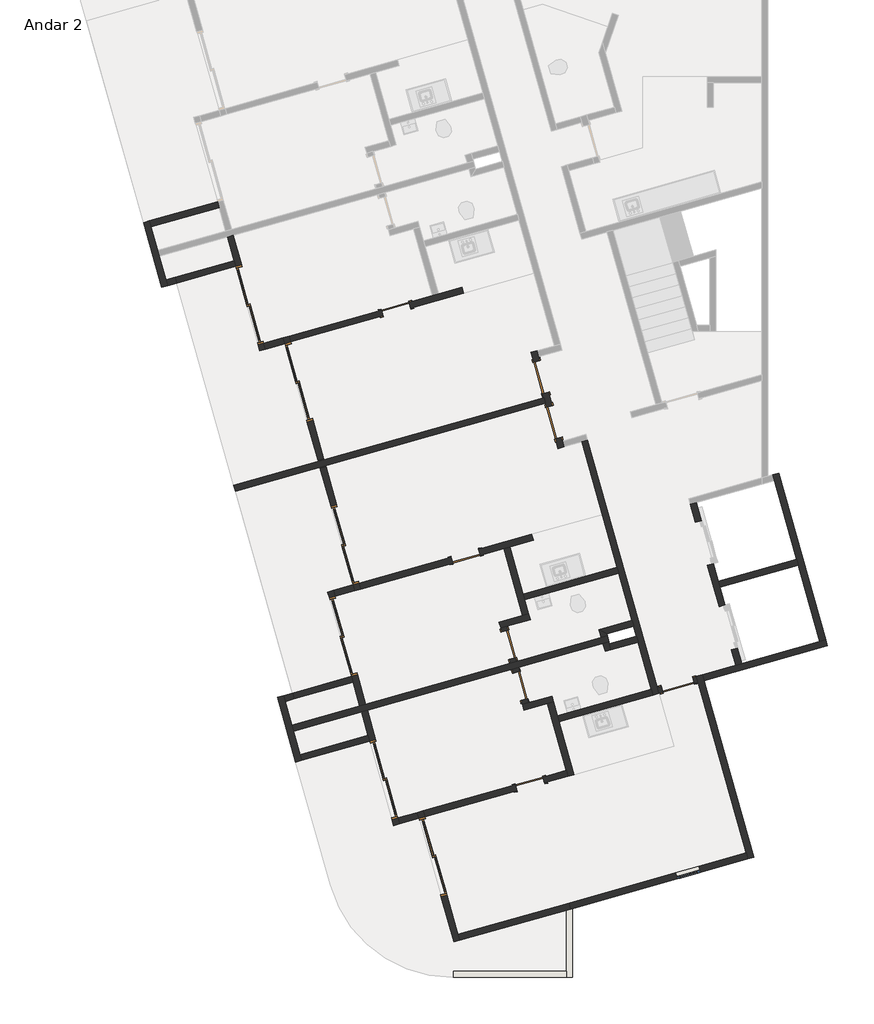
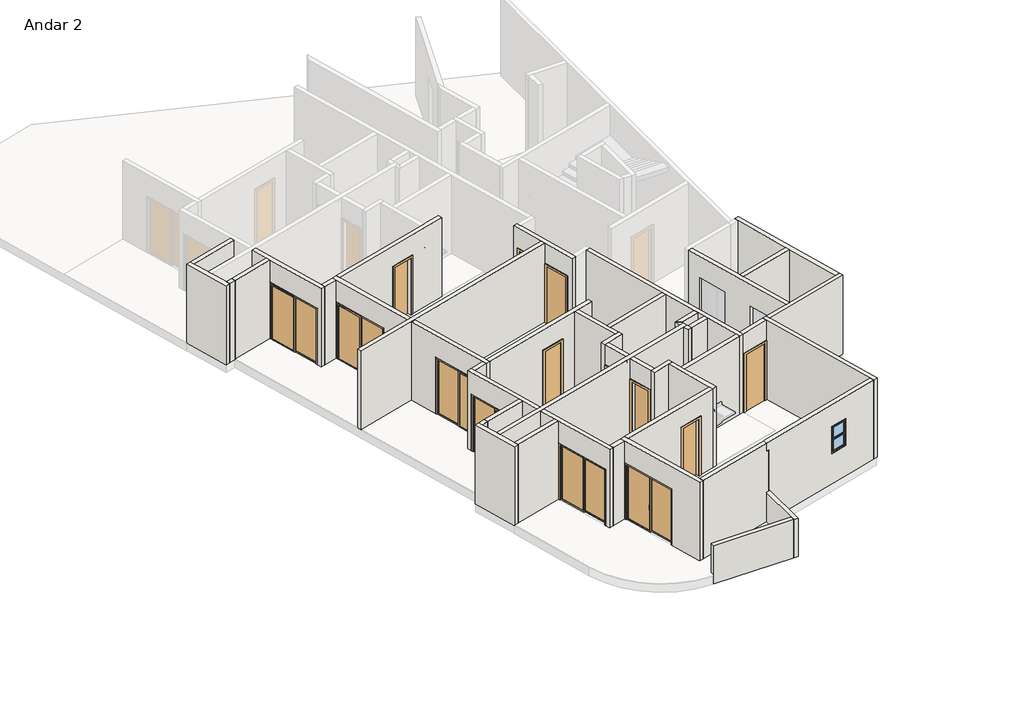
# One storey, part 1 of 3: 46 walls, 14 doors, 1 window.
"""IFC4 building model written with IfcOpenShell, lengths in millimetres."""

from ifc_helpers import new_model, si_unit, frame, origin, place, context, project, spatial, polyline, outline, extrude, faceted_brep, transform, mapped, element, save
from components import p2_80cm_9d4be4ef, p2_80cm_083652d6, p3_70cm_ef4d15e3, p3_70cm_0a698c7c, p4_correr_200cm_eaaa0877, p4_correr_200cm_830b8f20, bx_60cm_cef95a5c

model = new_model("IFC4")

# Units and contexts
model_context = context("Model", 3, world=origin())
ifc_project = project(units=[si_unit("LENGTHUNIT", "METRE", prefix="MILLI")], contexts=[model_context])

# Site, building, storey
site = spatial("IfcSite", under=ifc_project)
building = spatial("IfcBuilding", under=site)
storey = spatial("IfcBuildingStorey", under=building, Name="Andar 2", Elevation=56550.0)

# Doors
placement = place(None, origin())
p2_80cm_shape = p2_80cm_9d4be4ef(model_context)
element("IfcDoor", 1, ObjectType="M_Folha única1 : P2 - 80CM", at=placement, inside=storey, context=model_context, shape_type="MappedRepresentation", body=[
    mapped(p2_80cm_shape, transform((-80566.3456776, 19693.5423602, 56550.0), x_axis=(0.2717679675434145, -0.9623628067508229, 0.0), y_axis=(0.9623628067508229, 0.2717679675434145, 0.0), z_axis=(0.0, 0.0, 1.0))),
])
element("IfcDoor", 2, ObjectType="M_Folha única1 : P2 - 80CM", at=placement, inside=storey, context=model_context, shape_type="MappedRepresentation", body=[
    mapped(p2_80cm_shape, transform((-77213.6668366, 12144.847648, 56550.0), x_axis=(0.9623628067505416, 0.2717679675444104, 0.0), y_axis=(-0.2717679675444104, 0.9623628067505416, 0.0), z_axis=(0.0, 0.0, 1.0))),
])
p2_80cm_2_shape = p2_80cm_083652d6(model_context)
element("IfcDoor", 3, ObjectType="M_Folha única1 : P2 - 80CM", at=placement, inside=storey, context=model_context, shape_type="MappedRepresentation", body=[
    mapped(p2_80cm_2_shape, transform((-80253.8125149, 18586.8251325, 56550.0), x_axis=(-0.2717679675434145, 0.9623628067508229, 0.0), y_axis=(-0.9623628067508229, -0.2717679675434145, 0.0), z_axis=(0.0, 0.0, 1.0))),
])
p3_70cm_shape = p3_70cm_ef4d15e3(model_context)
element("IfcDoor", 4, ObjectType="M_Folha única1 : P3 - 70CM", at=placement, inside=storey, context=model_context, shape_type="MappedRepresentation", body=[
    mapped(p3_70cm_shape, transform((-84129.1775441, 21363.1168842, 56550.0), x_axis=(0.9623628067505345, 0.27176796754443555, 0.0), y_axis=(-0.27176796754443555, 0.9623628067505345, 0.0), z_axis=(0.0, 0.0, 1.0))),
])
element("IfcDoor", 5, ObjectType="M_Folha única1 : P3 - 70CM", at=placement, inside=storey, context=model_context, shape_type="MappedRepresentation", body=[
    mapped(p3_70cm_shape, transform((-80840.7851368, 9718.5269225, 56550.0), x_axis=(0.9623628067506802, 0.2717679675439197, 0.0), y_axis=(-0.2717679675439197, 0.9623628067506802, 0.0), z_axis=(0.0, 0.0, 1.0))),
])
element("IfcDoor", 6, ObjectType="M_Folha única1 : P3 - 70CM", at=placement, inside=storey, context=model_context, shape_type="MappedRepresentation", body=[
    mapped(p3_70cm_shape, transform((-81362.5862327, 13130.1209218, 56550.0), x_axis=(0.271767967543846, -0.9623628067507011, 0.0), y_axis=(0.9623628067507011, 0.271767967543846, 0.0), z_axis=(0.0, 0.0, 1.0))),
])
p3_70cm_2_shape = p3_70cm_0a698c7c(model_context)
element("IfcDoor", 7, ObjectType="M_Folha única1 : P3 - 70CM", at=placement, inside=storey, context=model_context, shape_type="MappedRepresentation", body=[
    mapped(p3_70cm_2_shape, transform((-81077.2298668, 12119.6399747, 56550.0), x_axis=(-0.27176796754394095, 0.9623628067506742, 0.0), y_axis=(-0.9623628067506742, -0.27176796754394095, 0.0), z_axis=(0.0, 0.0, 1.0))),
])
element("IfcDoor", 8, ObjectType="M_Folha única1 : P3 - 70CM", at=placement, inside=storey, context=model_context, shape_type="MappedRepresentation", body=[
    mapped(p3_70cm_2_shape, transform((-82417.0393485, 15300.2312016, 56550.0), x_axis=(0.9623628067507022, 0.27176796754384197, 0.0), y_axis=(-0.27176796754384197, 0.9623628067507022, 0.0), z_axis=(0.0, 0.0, 1.0))),
])
p4_correr_200cm_shape = p4_correr_200cm_eaaa0877(model_context)
element("IfcDoor", 9, ObjectType="Porta de correr dupla envidraçada sem revestimento : P4 - CORRER - 200CM", at=placement, inside=storey, context=model_context, shape_type="MappedRepresentation", body=[
    mapped(p4_correr_200cm_shape, transform((-86511.4049952, 19573.3416554, 56550.0), x_axis=(0.2717679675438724, -0.9623628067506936, 0.0), y_axis=(0.9623628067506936, 0.2717679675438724, 0.0), z_axis=(0.0, 0.0, 1.0))),
])
element("IfcDoor", 10, ObjectType="Porta de correr dupla envidraçada sem revestimento : P4 - CORRER - 200CM", at=placement, inside=storey, context=model_context, shape_type="MappedRepresentation", body=[
    mapped(p4_correr_200cm_shape, transform((-87717.4207223, 21466.8516126, 56550.0), x_axis=(0.2717679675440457, -0.9623628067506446, 0.0), y_axis=(0.9623628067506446, 0.2717679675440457, 0.0), z_axis=(0.0, 0.0, 1.0))),
])
element("IfcDoor", 11, ObjectType="Porta de correr dupla envidraçada sem revestimento : P4 - CORRER - 200CM", at=placement, inside=storey, context=model_context, shape_type="MappedRepresentation", body=[
    mapped(p4_correr_200cm_shape, transform((-84429.028315, 9822.2616509, 56550.0), x_axis=(-0.27176796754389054, 0.9623628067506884, 0.0), y_axis=(-0.9623628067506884, -0.27176796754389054, 0.0), z_axis=(0.0, 0.0, 1.0))),
])
element("IfcDoor", 12, ObjectType="Porta de correr dupla envidraçada sem revestimento : P4 - CORRER - 200CM", at=placement, inside=storey, context=model_context, shape_type="MappedRepresentation", body=[
    mapped(p4_correr_200cm_shape, transform((-83223.012588, 7928.7516937, 56550.0), x_axis=(-0.2717679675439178, 0.9623628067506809, 0.0), y_axis=(-0.9623628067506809, -0.2717679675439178, 0.0), z_axis=(0.0, 0.0, 1.0))),
])
p4_correr_200cm_2_shape = p4_correr_200cm_830b8f20(model_context)
element("IfcDoor", 13, ObjectType="Porta de correr dupla envidraçada sem revestimento : P4 - CORRER - 200CM", at=placement, inside=storey, context=model_context, shape_type="MappedRepresentation", body=[
    mapped(p4_correr_200cm_2_shape, transform((-85383.5679299, 15579.5360073, 56550.0), x_axis=(-0.2717679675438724, 0.9623628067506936, 0.0), y_axis=(-0.9623628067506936, -0.2717679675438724, 0.0), z_axis=(0.0, 0.0, 1.0))),
])
element("IfcDoor", 14, ObjectType="Porta de correr dupla envidraçada sem revestimento : P4 - CORRER - 200CM", at=placement, inside=storey, context=model_context, shape_type="MappedRepresentation", body=[
    mapped(p4_correr_200cm_2_shape, transform((-85420.9813965, 13334.8858955, 56550.0), x_axis=(-0.27176796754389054, 0.9623628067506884, 0.0), y_axis=(-0.9623628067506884, -0.27176796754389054, 0.0), z_axis=(0.0, 0.0, 1.0))),
])

# Walls
element("IfcWall", 15, ObjectType="Básica .15 - Externa", at=placement, inside=storey, context=model_context, shape_type="Brep", body=[
    faceted_brep([(-75344.9919691, 7919.3931149, 56550.0), (-76567.7484146, 12249.3196164, 56550.0), (-76608.5136097, 12393.6740374, 56550.0), (-76608.5136097, 12393.6740374, 59450.0), (-76567.7484146, 12249.3196164, 59450.0), (-75344.9919691, 7919.3931149, 59450.0), (-75489.3463901, 7878.6279198, 56550.0), (-75489.3463901, 7878.6279198, 59450.0), (-75530.1115852, 8022.9823408, 59450.0), (-76712.1028356, 12208.5544213, 59450.0), (-76752.8680308, 12352.9088423, 59450.0), (-76752.8680308, 12352.9088423, 56550.0), (-76712.1028356, 12208.5544213, 56550.0), (-75530.1115852, 8022.9823408, 56550.0)], [[[0, 1, 2, 3, 4, 5]], [[6, 7, 8, 9, 10, 11, 12, 13]], [[2, 1, 0, 6, 13, 12, 11]], [[5, 4, 3, 10, 9, 8, 7]], [[0, 5, 7, 6]], [[3, 2, 11, 10]]]),
])
element("IfcWall", 16, ObjectType="Básica .15 -  Interna", at=placement, inside=storey, context=model_context, shape_type="Brep", body=[
    faceted_brep([(-80529.815701, 19288.21464, 56550.0), (-80502.6389043, 19191.9783593, 56550.0), (-80461.8737092, 19047.6239383, 56550.0), (-80434.6969124, 18951.3876576, 56550.0), (-80434.6969124, 18951.3876576, 58650.0), (-80217.2825384, 18181.4974122, 58650.0), (-80217.2825384, 18181.4974122, 56550.0), (-80149.3405465, 17940.9067105, 56550.0), (-80149.3405465, 17940.9067105, 59450.0), (-80461.8737092, 19047.6239383, 59450.0), (-80502.6389043, 19191.9783593, 59450.0), (-80815.172067, 20298.695587, 59450.0), (-80815.172067, 20298.695587, 56550.0), (-80747.2300751, 20058.1048854, 56550.0), (-80747.2300751, 20058.1048854, 58650.0), (-80529.815701, 19288.21464, 58650.0), (-80290.3424914, 18992.1528527, 58650.0), (-80290.3424914, 18992.1528527, 56550.0), (-80385.46128, 19328.9798351, 56550.0), (-80385.46128, 19328.9798351, 58650.0), (-80602.8756541, 20098.8700805, 58650.0), (-80602.8756541, 20098.8700805, 56550.0), (-80630.0524508, 20195.1063612, 56550.0), (-80670.817646, 20339.4607822, 56550.0), (-80670.817646, 20339.4607822, 59450.0), (-80630.0524508, 20195.1063612, 59450.0), (-80045.7513206, 18126.0263266, 59450.0), (-80004.9861255, 17981.6719056, 59450.0), (-80004.9861255, 17981.6719056, 56550.0), (-80045.7513206, 18126.0263266, 56550.0), (-80072.9281174, 18222.2626073, 56550.0), (-80072.9281174, 18222.2626073, 58650.0)], [[[0, 1, 2, 3, 4, 5, 6, 7, 8, 9, 10, 11, 12, 13, 14, 15]], [[16, 17, 18, 19, 20, 21, 22, 23, 24, 25, 26, 27, 28, 29, 30, 31]], [[13, 12, 23, 22, 21]], [[18, 17, 3, 2, 1, 0]], [[30, 29, 28, 7, 6]], [[11, 10, 9, 8, 27, 26, 25, 24]], [[12, 11, 24, 23]], [[8, 7, 28, 27]], [[19, 18, 0, 15]], [[20, 19, 15, 14]], [[21, 20, 14, 13]], [[4, 3, 17, 16]], [[5, 4, 16, 31]], [[6, 5, 31, 30]]]),
])
element("IfcWall", 17, ObjectType="Básica .15 -  Interna", at=placement, inside=storey, context=model_context, shape_type="Brep", body=[
    faceted_brep([(-79571.9228624, 18103.967491, 56550.0), (-78702.2653663, 15024.4065094, 56550.0), (-78661.5001712, 14880.0520884, 56550.0), (-78335.3786101, 13725.2167203, 56550.0), (-78294.613415, 13580.8622993, 56550.0), (-78226.6714231, 13340.2715976, 56550.0), (-78185.906228, 13195.9171766, 56550.0), (-77818.8200634, 11896.0212586, 56550.0), (-77818.8200634, 11896.0212586, 59450.0), (-78185.906228, 13195.9171766, 59450.0), (-78226.6714231, 13340.2715976, 59450.0), (-78294.613415, 13580.8622993, 59450.0), (-78335.3786101, 13725.2167203, 59450.0), (-78661.5001712, 14880.0520884, 59450.0), (-78702.2653663, 15024.4065094, 59450.0), (-79571.9228624, 18103.967491, 59450.0), (-79427.5684414, 18144.7326862, 56550.0), (-79427.5684414, 18144.7326862, 59450.0), (-77715.2308375, 12081.1408747, 59450.0), (-77674.4656424, 11936.7864537, 59450.0), (-77674.4656424, 11936.7864537, 56550.0), (-77715.2308375, 12081.1408747, 56550.0)], [[[0, 1, 2, 3, 4, 5, 6, 7, 8, 9, 10, 11, 12, 13, 14, 15]], [[16, 17, 18, 19, 20, 21]], [[7, 6, 5, 4, 3, 2, 1, 0, 16, 21, 20]], [[15, 14, 13, 12, 11, 10, 9, 8, 19, 18, 17]], [[0, 15, 17, 16]], [[8, 7, 20, 19]]]),
])
element("IfcWall", 18, ObjectType="Básica .15 -  Interna", at=placement, inside=storey, context=model_context, shape_type="Brep", body=[
    faceted_brep([(-85017.5646639, 11630.3683862, 59450.0), (-85180.6254444, 12207.7860702, 59450.0), (-85221.3906395, 12352.1404912, 59450.0), (-85805.6917697, 14421.2205257, 59450.0), (-85805.6917697, 14421.2205257, 56550.0), (-85764.9265746, 14276.8661047, 56550.0), (-85764.9265746, 14276.8661047, 58650.0), (-85221.3906395, 12352.1404912, 58650.0), (-85221.3906395, 12352.1404912, 56550.0), (-85180.6254444, 12207.7860702, 56550.0), (-85017.5646639, 11630.3683862, 56550.0), (-85661.3373487, 14461.9857209, 59450.0), (-85620.5721536, 14317.6312998, 59450.0), (-84873.2102428, 11671.1335813, 59450.0), (-84873.2102428, 11671.1335813, 56550.0), (-85077.0362185, 12392.9056863, 56550.0), (-85077.0362185, 12392.9056863, 58650.0), (-85620.5721536, 14317.6312998, 58650.0), (-85620.5721536, 14317.6312998, 56550.0), (-85661.3373487, 14461.9857209, 56550.0)], [[[0, 1, 2, 3, 4, 5, 6, 7, 8, 9, 10]], [[11, 12, 13, 14, 15, 16, 17, 18, 19]], [[4, 19, 18, 5]], [[14, 10, 9, 8, 15]], [[3, 2, 1, 0, 13, 12, 11]], [[4, 3, 11, 19]], [[0, 10, 14, 13]], [[17, 6, 5, 18]], [[6, 17, 16, 7]], [[7, 16, 15, 8]]]),
])
element("IfcWall", 19, ObjectType="Básica .15 -  Interna", at=placement, inside=storey, context=model_context, shape_type="Brep", body=[
    faceted_brep([(-82710.8886682, 5839.2890616, 59450.0), (-83566.957766, 8870.7319029, 59450.0), (-83607.7229611, 9015.0863239, 59450.0), (-83607.7229611, 9015.0863239, 56550.0), (-83566.957766, 8870.7319029, 56550.0), (-83566.957766, 8870.7319029, 58650.0), (-83023.4218309, 6946.0062894, 58650.0), (-83023.4218309, 6946.0062894, 56550.0), (-82710.8886682, 5839.2890616, 56550.0), (-83463.3685401, 9055.851519, 59450.0), (-83422.603345, 8911.497098, 59450.0), (-82607.2994424, 6024.4086777, 59450.0), (-82566.5342472, 5880.0542567, 59450.0), (-82566.5342472, 5880.0542567, 56550.0), (-82607.2994424, 6024.4086777, 56550.0), (-82879.0674099, 6986.7714845, 56550.0), (-82879.0674099, 6986.7714845, 58650.0), (-83422.603345, 8911.497098, 58650.0), (-83422.603345, 8911.497098, 56550.0), (-83463.3685401, 9055.851519, 56550.0)], [[[0, 1, 2, 3, 4, 5, 6, 7, 8]], [[9, 10, 11, 12, 13, 14, 15, 16, 17, 18, 19]], [[3, 19, 18, 4]], [[13, 8, 7, 15, 14]], [[2, 1, 0, 12, 11, 10, 9]], [[3, 2, 9, 19]], [[0, 8, 13, 12]], [[17, 5, 4, 18]], [[5, 17, 16, 6]], [[6, 16, 15, 7]]]),
])
element("IfcWall", 20, ObjectType="Básica .15 -  Interna", at=placement, inside=storey, context=model_context, shape_type="Brep", body=[
    faceted_brep([(-86046.8404698, 17652.2925145, 56550.0), (-86046.8404698, 17652.2925145, 59450.0), (-86855.3501733, 20515.3218646, 59450.0), (-86896.1153684, 20659.6762856, 59450.0), (-86896.1153684, 20659.6762856, 56550.0), (-86855.3501733, 20515.3218646, 56550.0), (-86855.3501733, 20515.3218646, 58650.0), (-86311.8142382, 18590.596251, 58650.0), (-86311.8142382, 18590.596251, 56550.0), (-85902.4860488, 17693.0577096, 59450.0), (-85902.4860488, 17693.0577096, 56550.0), (-86167.4598172, 18631.3614462, 56550.0), (-86167.4598172, 18631.3614462, 58650.0), (-86710.9957523, 20556.0870597, 58650.0), (-86710.9957523, 20556.0870597, 56550.0), (-86751.7609474, 20700.4414807, 56550.0), (-86751.7609474, 20700.4414807, 59450.0), (-86710.9957523, 20556.0870597, 59450.0)], [[[0, 1, 2, 3, 4, 5, 6, 7, 8]], [[9, 10, 11, 12, 13, 14, 15, 16, 17]], [[10, 0, 8, 11]], [[4, 15, 14, 5]], [[1, 0, 10, 9]], [[3, 2, 1, 9, 17, 16]], [[4, 3, 16, 15]], [[7, 12, 11, 8]], [[12, 7, 6, 13]], [[13, 6, 5, 14]]]),
])
element("IfcWall", 21, ObjectType="Básica .15 - Externa", at=placement, inside=storey, context=model_context, shape_type="Brep", body=[
    faceted_brep([(-79945.4990038, 6620.2256515, 57650.0), (-79945.4990038, 6620.2256515, 56550.0), (-79945.4990038, 6620.2256515, 56250.0), (-79945.4990038, 5119.4122055, 56250.0), (-79945.4990038, 4969.4122055, 56250.0), (-79945.4990038, 4969.4122055, 57650.0), (-79945.4990038, 5119.4122055, 57650.0), (-79795.4990038, 6662.5851389, 56250.0), (-79795.4990038, 6662.5851389, 57650.0), (-79795.4990038, 4969.4122055, 57650.0), (-79795.4990038, 4969.4122055, 56250.0), (-79850.1164062, 6647.1613711, 56250.0)], [[[0, 1, 2, 3, 4, 5, 6]], [[7, 8, 9, 10]], [[4, 3, 2, 11, 7, 10]], [[0, 6, 5, 9, 8]], [[5, 4, 10, 9]], [[0, 8, 7, 11, 2, 1]]]),
])
element("IfcWall", 22, ObjectType="Básica .15 - Externa", at=placement, inside=storey, context=model_context, shape_type="SweptSolid", body=[
    extrude(outline(polyline([(-82713.5540687, 5119.4122055), (-79945.4990038, 5119.4122055), (-79945.4990038, 4969.4122055), (-82713.5540687, 4969.4122055), (-82713.5540687, 5119.4122055)])), frame((0.0, 0.0, 56250.0), z_axis=(0.0, 0.0, 1.0), x_axis=(1.0, 0.0, 0.0)), (0.0, 0.0, 1.0), 1400.0),
])
element("IfcWall", 23, ObjectType="Básica .15 - Externa", at=placement, inside=storey, context=model_context, shape_type="Brep", body=[
    faceted_brep([(-73581.8825825, 13248.3842954, 56550.0), (-73726.2370035, 13207.6191002, 56550.0), (-75646.150803, 12665.442005, 56550.0), (-75790.505224, 12624.6768098, 56550.0), (-76608.5136097, 12393.6740374, 56550.0), (-76608.5136097, 12393.6740374, 59450.0), (-75790.505224, 12624.6768098, 59450.0), (-75646.150803, 12665.442005, 59450.0), (-73726.2370035, 13207.6191002, 59450.0), (-73581.8825825, 13248.3842954, 59450.0), (-73541.1173874, 13104.0298743, 56550.0), (-73541.1173874, 13104.0298743, 59450.0), (-76567.7484146, 12249.3196164, 59450.0), (-76567.7484146, 12249.3196164, 56550.0)], [[[0, 1, 2, 3, 4, 5, 6, 7, 8, 9]], [[10, 11, 12, 13]], [[4, 3, 2, 1, 0, 10, 13]], [[9, 8, 7, 6, 5, 12, 11]], [[0, 9, 11, 10]], [[5, 4, 13, 12]]]),
])
element("IfcWall", 24, ObjectType="Básica .15 - Externa", at=placement, inside=storey, context=model_context, shape_type="Brep", body=[
    faceted_brep([(-74881.2508656, 17297.6610289, 56550.0), (-74840.4856705, 17153.3066079, 56550.0), (-74296.9497354, 15228.5809944, 56550.0), (-74256.1845402, 15084.2265734, 56550.0), (-73726.2370035, 13207.6191002, 56550.0), (-73726.2370035, 13207.6191002, 59450.0), (-74256.1845402, 15084.2265734, 59450.0), (-74296.9497354, 15228.5809944, 59450.0), (-74840.4856705, 17153.3066079, 59450.0), (-74881.2508656, 17297.6610289, 59450.0), (-74736.8964446, 17338.426224, 56550.0), (-74736.8964446, 17338.426224, 59450.0), (-73581.8825825, 13248.3842954, 59450.0), (-73581.8825825, 13248.3842954, 56550.0)], [[[0, 1, 2, 3, 4, 5, 6, 7, 8, 9]], [[10, 11, 12, 13]], [[4, 3, 2, 1, 0, 10, 13]], [[9, 8, 7, 6, 5, 12, 11]], [[0, 9, 11, 10]], [[5, 4, 13, 12]]]),
])
element("IfcWall", 25, ObjectType="Básica .15 -  Interna", at=placement, inside=storey, context=model_context, shape_type="Brep", body=[
    faceted_brep([(-76483.167581, 15077.4768805, 56550.0), (-76197.8112151, 14066.9959334, 56550.0), (-76197.8112151, 14066.9959334, 58675.0), (-75898.8664508, 13008.396846, 58675.0), (-75898.8664508, 13008.396846, 56550.0), (-75790.505224, 12624.6768098, 56550.0), (-75790.505224, 12624.6768098, 59450.0), (-76904.7538909, 16570.3643175, 59450.0), (-76904.7538909, 16570.3643175, 56550.0), (-76782.1123453, 16136.075968, 56550.0), (-76782.1123453, 16136.075968, 58675.0), (-76483.167581, 15077.4768805, 58675.0), (-76053.4567941, 14107.7611286, 58675.0), (-76053.4567941, 14107.7611286, 56550.0), (-76176.0983397, 14542.0494781, 56550.0), (-76216.8635348, 14686.4038991, 56550.0), (-76338.81316, 15118.2420757, 56550.0), (-76338.81316, 15118.2420757, 58675.0), (-76637.7579243, 16176.8411631, 58675.0), (-76637.7579243, 16176.8411631, 56550.0), (-76760.3994699, 16611.1295126, 56550.0), (-76760.3994699, 16611.1295126, 59450.0), (-76216.8635348, 14686.4038991, 59450.0), (-76176.0983397, 14542.0494781, 59450.0), (-75646.150803, 12665.442005, 59450.0), (-75646.150803, 12665.442005, 56550.0), (-75754.5120298, 13049.1620412, 56550.0), (-75754.5120298, 13049.1620412, 58675.0)], [[[0, 1, 2, 3, 4, 5, 6, 7, 8, 9, 10, 11]], [[12, 13, 14, 15, 16, 17, 18, 19, 20, 21, 22, 23, 24, 25, 26, 27]], [[9, 8, 20, 19]], [[26, 25, 5, 4]], [[16, 15, 14, 13, 1, 0]], [[7, 6, 24, 23, 22, 21]], [[8, 7, 21, 20]], [[6, 5, 25, 24]], [[4, 3, 27, 26]], [[2, 1, 13, 12]], [[3, 2, 12, 27]], [[19, 18, 10, 9]], [[17, 16, 0, 11]], [[18, 17, 11, 10]]]),
])
element("IfcWall", 26, ObjectType="Básica .15 -  Interna", at=placement, inside=storey, context=model_context, shape_type="SweptSolid", body=[
    extrude(outline(polyline([(-74256.1845402, 15084.2265734), (-76176.0983397, 14542.0494781), (-76216.8635348, 14686.4038991), (-74296.9497354, 15228.5809944), (-74256.1845402, 15084.2265734)])), frame((0.0, 0.0, 56550.0), z_axis=(0.0, 0.0, 1.0), x_axis=(1.0, 0.0, 0.0)), (0.0, 0.0, 1.0), 2900.0),
])
element("IfcWall", 27, ObjectType="Básica .15 -  Interna", at=placement, inside=storey, context=model_context, shape_type="Brep", body=[
    faceted_brep([(-82566.5342472, 5880.0542567, 56550.0), (-79945.4990038, 6620.2256515, 56550.0), (-79850.1164062, 6647.1613711, 56550.0), (-79850.1164062, 6647.1613711, 59150.0), (-79945.4990038, 6620.2256515, 59150.0), (-79945.4990038, 6620.2256515, 59450.0), (-82566.5342472, 5880.0542567, 59450.0), (-82607.2994424, 6024.4086777, 56550.0), (-82607.2994424, 6024.4086777, 59450.0), (-79945.4990038, 6776.0920243, 59450.0), (-79945.4990038, 6776.0920243, 59150.0), (-79890.8816014, 6791.5157921, 59150.0), (-79890.8816014, 6791.5157921, 56550.0), (-79945.4990038, 6776.0920243, 56550.0)], [[[0, 1, 2, 3, 4, 5, 6]], [[7, 8, 9, 10, 11, 12, 13]], [[2, 1, 0, 7, 13, 12]], [[6, 5, 9, 8]], [[0, 6, 8, 7]], [[2, 12, 11, 3]], [[10, 4, 3, 11]], [[5, 4, 10, 9]]]),
])
element("IfcWall", 28, ObjectType="Básica .15 -  Interna", at=placement, inside=storey, context=model_context, shape_type="Brep", body=[
    faceted_brep([(-85221.3906395, 12352.1404912, 56550.0), (-86668.7560772, 11943.4094383, 56550.0), (-86668.7560772, 11943.4094383, 59450.0), (-85221.3906395, 12352.1404912, 59450.0), (-85221.3906395, 12352.1404912, 58650.0), (-85180.6254444, 12207.7860702, 56550.0), (-85180.6254444, 12207.7860702, 59450.0), (-86627.9908821, 11799.0550173, 59450.0), (-86627.9908821, 11799.0550173, 56550.0)], [[[0, 1, 2, 3, 4]], [[5, 6, 7, 8]], [[1, 0, 5, 8]], [[2, 1, 8, 7]], [[3, 2, 7, 6]], [[0, 4, 3, 6, 5]]]),
])
element("IfcWall", 29, ObjectType="Básica .15 - Externa", at=placement, inside=storey, context=model_context, shape_type="Brep", body=[
    faceted_brep([(-86444.4738537, 10292.215871, 56550.0), (-86485.2390488, 10436.570292, 56550.0), (-86648.2998293, 11013.987976, 56550.0), (-86689.0650245, 11158.342397, 56550.0), (-86852.125805, 11735.7600811, 56550.0), (-86892.8910001, 11880.1145021, 56550.0), (-86892.8910001, 11880.1145021, 59450.0), (-86852.125805, 11735.7600811, 59450.0), (-86689.0650245, 11158.342397, 59450.0), (-86648.2998293, 11013.987976, 59450.0), (-86485.2390488, 10436.570292, 59450.0), (-86444.4738537, 10292.215871, 59450.0), (-86588.8282747, 10251.4506758, 56550.0), (-86588.8282747, 10251.4506758, 59450.0), (-87037.2454211, 11839.349307, 59450.0), (-87037.2454211, 11839.349307, 56550.0)], [[[0, 1, 2, 3, 4, 5, 6, 7, 8, 9, 10, 11]], [[12, 13, 14, 15]], [[5, 4, 3, 2, 1, 0, 12, 15]], [[11, 10, 9, 8, 7, 6, 14, 13]], [[6, 5, 15, 14]], [[0, 11, 13, 12]]]),
])
element("IfcWall", 30, ObjectType="Básica .15 -  Interna", at=placement, inside=storey, context=model_context, shape_type="Brep", body=[
    faceted_brep([(-86444.4738537, 10292.215871, 56550.0), (-84772.9734931, 10764.2418601, 56550.0), (-84772.9734931, 10764.2418601, 58650.0), (-84772.9734931, 10764.2418601, 59450.0), (-86444.4738537, 10292.215871, 59450.0), (-86485.2390488, 10436.570292, 56550.0), (-86485.2390488, 10436.570292, 59450.0), (-84813.7386882, 10908.5962811, 59450.0), (-84813.7386882, 10908.5962811, 56550.0)], [[[0, 1, 2, 3, 4]], [[5, 6, 7, 8]], [[1, 0, 5, 8]], [[4, 3, 7, 6]], [[0, 4, 6, 5]], [[3, 2, 1, 8, 7]]]),
])
element("IfcWall", 31, ObjectType="Básica .15 - Externa", at=placement, inside=storey, context=model_context, shape_type="Brep", body=[
    faceted_brep([(-89732.866261, 21936.8058326, 56550.0), (-89773.6314561, 22081.1602536, 56550.0), (-89936.6922366, 22658.5779377, 56550.0), (-89977.4574318, 22802.9323587, 56550.0), (-90140.5182123, 23380.3500428, 56550.0), (-90181.2834074, 23524.7044638, 56550.0), (-90181.2834074, 23524.7044638, 59450.0), (-90140.5182123, 23380.3500428, 59450.0), (-89977.4574318, 22802.9323587, 59450.0), (-89936.6922366, 22658.5779377, 59450.0), (-89773.6314561, 22081.1602536, 59450.0), (-89732.866261, 21936.8058326, 59450.0), (-89877.220682, 21896.0406375, 56550.0), (-89877.220682, 21896.0406375, 59450.0), (-90325.6378284, 23483.9392686, 59450.0), (-90325.6378284, 23483.9392686, 56550.0)], [[[0, 1, 2, 3, 4, 5, 6, 7, 8, 9, 10, 11]], [[12, 13, 14, 15]], [[5, 4, 3, 2, 1, 0, 12, 15]], [[11, 10, 9, 8, 7, 6, 14, 13]], [[0, 11, 13, 12]], [[6, 5, 15, 14]]]),
])
element("IfcWall", 32, ObjectType="Básica .15 -  Interna", at=placement, inside=storey, context=model_context, shape_type="Brep", body=[
    faceted_brep([(-88102.1310955, 22553.1862428, 56550.0), (-89549.4965332, 22144.4551899, 56550.0), (-89549.4965332, 22144.4551899, 59450.0), (-88102.1310955, 22553.1862428, 59450.0), (-88061.3659003, 22408.8318218, 56550.0), (-88061.3659003, 22408.8318218, 58650.0), (-88061.3659003, 22408.8318218, 59450.0), (-89508.731338, 22000.1007688, 59450.0), (-89508.731338, 22000.1007688, 56550.0)], [[[0, 1, 2, 3]], [[4, 5, 6, 7, 8]], [[1, 0, 4, 8]], [[2, 1, 8, 7]], [[3, 2, 7, 6]], [[0, 3, 6, 5, 4]]]),
])
element("IfcWall", 33, ObjectType="Básica .15 -  Interna", at=placement, inside=storey, context=model_context, shape_type="Brep", body=[
    faceted_brep([(-90140.5182123, 23380.3500428, 56550.0), (-88469.0178517, 23852.3760319, 56550.0), (-88469.0178517, 23852.3760319, 59450.0), (-90140.5182123, 23380.3500428, 59450.0), (-90181.2834074, 23524.7044638, 56550.0), (-90181.2834074, 23524.7044638, 59450.0), (-88509.7830468, 23996.7304529, 59450.0), (-88509.7830468, 23996.7304529, 58650.0), (-88509.7830468, 23996.7304529, 56550.0)], [[[0, 1, 2, 3]], [[4, 5, 6, 7, 8]], [[1, 0, 4, 8]], [[3, 2, 6, 5]], [[0, 3, 5, 4]], [[2, 1, 8, 7, 6]]]),
])
element("IfcWall", 34, ObjectType="Básica .15 -  Interna", at=placement, inside=storey, context=model_context, shape_type="Brep", body=[
    faceted_brep([(-86896.1153684, 20659.6762856, 56550.0), (-87373.4755442, 20524.8714034, 56550.0), (-87373.4755442, 20524.8714034, 58650.0), (-87373.4755442, 20524.8714034, 59450.0), (-86896.1153684, 20659.6762856, 59450.0), (-86855.3501733, 20515.3218646, 56550.0), (-86855.3501733, 20515.3218646, 58650.0), (-86855.3501733, 20515.3218646, 59450.0), (-87332.7103491, 20380.5169824, 59450.0), (-87332.7103491, 20380.5169824, 56550.0)], [[[0, 1, 2, 3, 4]], [[5, 6, 7, 8, 9]], [[1, 0, 5, 9]], [[4, 3, 8, 7]], [[0, 4, 7, 6, 5]], [[3, 2, 1, 9, 8]]]),
])
element("IfcWall", 35, ObjectType="Básica .15 -  Interna", at=placement, inside=storey, context=model_context, shape_type="Brep", body=[
    faceted_brep([(-83607.7229611, 9015.0863239, 56550.0), (-84085.083137, 8880.2814417, 56550.0), (-84085.083137, 8880.2814417, 58650.0), (-84085.083137, 8880.2814417, 59450.0), (-83607.7229611, 9015.0863239, 59450.0), (-83566.957766, 8870.7319029, 56550.0), (-83566.957766, 8870.7319029, 58650.0), (-83566.957766, 8870.7319029, 59450.0), (-84044.3179418, 8735.9270207, 59450.0), (-84044.3179418, 8735.9270207, 56550.0)], [[[0, 1, 2, 3, 4]], [[5, 6, 7, 8, 9]], [[1, 0, 5, 9]], [[4, 3, 8, 7]], [[3, 2, 1, 9, 8]], [[0, 4, 7, 6, 5]]]),
])
element("IfcWall", 36, ObjectType="Básica .15 -  Interna", at=placement, inside=storey, context=model_context, shape_type="Brep", body=[
    faceted_brep([(-85183.9771729, 14596.790603, 56550.0), (-85661.3373487, 14461.9857209, 56550.0), (-85661.3373487, 14461.9857209, 59450.0), (-85183.9771729, 14596.790603, 59450.0), (-85183.9771729, 14596.790603, 58650.0), (-85143.2119778, 14452.436182, 56550.0), (-85143.2119778, 14452.436182, 59450.0), (-85620.5721536, 14317.6312998, 59450.0), (-85620.5721536, 14317.6312998, 58650.0), (-85620.5721536, 14317.6312998, 56550.0)], [[[0, 1, 2, 3, 4]], [[5, 6, 7, 8, 9]], [[1, 0, 5, 9]], [[3, 2, 7, 6]], [[2, 1, 9, 8, 7]], [[0, 4, 3, 6, 5]]]),
])
element("IfcWall", 37, ObjectType="Básica .15 -  Interna", at=placement, inside=storey, context=model_context, shape_type="Brep", body=[
    faceted_brep([(-87477.0647701, 20339.7517872, 59450.0), (-88061.3659003, 22408.8318218, 59450.0), (-88102.1310955, 22553.1862428, 59450.0), (-88265.191876, 23130.6039268, 59450.0), (-88265.191876, 23130.6039268, 56550.0), (-88102.1310955, 22553.1862428, 56550.0), (-88061.3659003, 22408.8318218, 56550.0), (-88061.3659003, 22408.8318218, 58650.0), (-87517.8299653, 20484.1062083, 58650.0), (-87517.8299653, 20484.1062083, 56550.0), (-87477.0647701, 20339.7517872, 56550.0), (-88120.837455, 23171.369122, 59450.0), (-87373.4755442, 20524.8714034, 59450.0), (-87332.7103491, 20380.5169824, 59450.0), (-87332.7103491, 20380.5169824, 56550.0), (-87373.4755442, 20524.8714034, 56550.0), (-87373.4755442, 20524.8714034, 58650.0), (-87917.0114793, 22449.5970169, 58650.0), (-87917.0114793, 22449.5970169, 56550.0), (-88120.837455, 23171.369122, 56550.0)], [[[0, 1, 2, 3, 4, 5, 6, 7, 8, 9, 10]], [[11, 12, 13, 14, 15, 16, 17, 18, 19]], [[14, 10, 9, 15]], [[4, 19, 18, 6, 5]], [[3, 2, 1, 0, 13, 12, 11]], [[0, 10, 14, 13]], [[4, 3, 11, 19]], [[8, 16, 15, 9]], [[16, 8, 7, 17]], [[17, 7, 6, 18]]]),
])
element("IfcWall", 38, ObjectType="Básica .15 -  Interna", at=placement, inside=storey, context=model_context, shape_type="Brep", body=[
    faceted_brep([(-85143.2119778, 14452.436182, 59450.0), (-85183.9771729, 14596.790603, 59450.0), (-85992.4868763, 17459.8199531, 59450.0), (-85992.4868763, 17459.8199531, 56550.0), (-85727.513108, 16521.5162165, 56550.0), (-85727.513108, 16521.5162165, 58650.0), (-85183.9771729, 14596.790603, 58650.0), (-85183.9771729, 14596.790603, 56550.0), (-85143.2119778, 14452.436182, 56550.0), (-85848.1324553, 17500.5851482, 59450.0), (-85039.6227519, 14637.5557982, 59450.0), (-84998.8575568, 14493.2013772, 59450.0), (-84998.8575568, 14493.2013772, 56550.0), (-85039.6227519, 14637.5557982, 56550.0), (-85039.6227519, 14637.5557982, 58650.0), (-85583.158687, 16562.2814117, 58650.0), (-85583.158687, 16562.2814117, 56550.0), (-85848.1324553, 17500.5851482, 56550.0)], [[[0, 1, 2, 3, 4, 5, 6, 7, 8]], [[9, 10, 11, 12, 13, 14, 15, 16, 17]], [[3, 17, 16, 4]], [[12, 8, 7, 13]], [[2, 1, 0, 11, 10, 9]], [[3, 2, 9, 17]], [[0, 8, 12, 11]], [[15, 5, 4, 16]], [[5, 15, 14, 6]], [[6, 14, 13, 7]]]),
])
element("IfcWall", 39, ObjectType="Básica .15 -  Interna", at=placement, inside=storey, context=model_context, shape_type="SweptSolid", body=[
    extrude(outline(polyline([(-80461.8737092, 19047.6239383), (-88068.36111, 16899.5778931), (-88109.1263052, 17043.9323141), (-80502.6389043, 19191.9783593), (-80461.8737092, 19047.6239383)])), frame((0.0, 0.0, 56550.0), z_axis=(0.0, 0.0, 1.0), x_axis=(1.0, 0.0, 0.0)), (0.0, 0.0, 1.0), 2900.0),
])
element("IfcWall", 40, ObjectType="Básica .15 -  Interna", at=placement, inside=storey, context=model_context, shape_type="Brep", body=[
    faceted_brep([(-78945.0553533, 13345.2242614, 56550.0), (-81168.1134369, 12717.4402563, 56550.0), (-81312.4678579, 12676.6750612, 56550.0), (-84873.2102428, 11671.1335813, 56550.0), (-85017.5646639, 11630.3683862, 56550.0), (-86689.0650245, 11158.342397, 56550.0), (-86689.0650245, 11158.342397, 59450.0), (-85017.5646639, 11630.3683862, 59450.0), (-84873.2102428, 11671.1335813, 59450.0), (-81312.4678579, 12676.6750612, 59450.0), (-81168.1134369, 12717.4402563, 59450.0), (-78945.0553533, 13345.2242614, 59450.0), (-78904.2901581, 13200.8698403, 56550.0), (-78904.2901581, 13200.8698403, 59450.0), (-81127.3482417, 12573.0858353, 59450.0), (-81271.7026627, 12532.3206402, 59450.0), (-84832.4450477, 11526.7791603, 59450.0), (-84976.7994687, 11486.0139651, 59450.0), (-86648.2998293, 11013.987976, 59450.0), (-86648.2998293, 11013.987976, 56550.0), (-84976.7994687, 11486.0139651, 56550.0), (-84832.4450477, 11526.7791603, 56550.0), (-81271.7026627, 12532.3206402, 56550.0), (-81127.3482417, 12573.0858353, 56550.0)], [[[0, 1, 2, 3, 4, 5, 6, 7, 8, 9, 10, 11]], [[12, 13, 14, 15, 16, 17, 18, 19, 20, 21, 22, 23]], [[5, 4, 3, 2, 1, 0, 12, 23, 22, 21, 20, 19]], [[11, 10, 9, 8, 7, 6, 18, 17, 16, 15, 14, 13]], [[0, 11, 13, 12]], [[6, 5, 19, 18]]]),
])
element("IfcWall", 41, ObjectType="Básica .15 -  Interna", at=placement, inside=storey, context=model_context, shape_type="Brep", body=[
    faceted_brep([(-84188.6723628, 8695.1618256, 59450.0), (-84772.9734931, 10764.2418601, 59450.0), (-84813.7386882, 10908.5962811, 59450.0), (-84976.7994687, 11486.0139651, 59450.0), (-84976.7994687, 11486.0139651, 56550.0), (-84813.7386882, 10908.5962811, 56550.0), (-84772.9734931, 10764.2418601, 56550.0), (-84772.9734931, 10764.2418601, 58650.0), (-84229.437558, 8839.5162466, 58650.0), (-84229.437558, 8839.5162466, 56550.0), (-84188.6723628, 8695.1618256, 56550.0), (-84832.4450477, 11526.7791603, 59450.0), (-84085.083137, 8880.2814417, 59450.0), (-84044.3179418, 8735.9270207, 59450.0), (-84044.3179418, 8735.9270207, 56550.0), (-84085.083137, 8880.2814417, 56550.0), (-84085.083137, 8880.2814417, 58650.0), (-84628.6190721, 10805.0070552, 58650.0), (-84628.6190721, 10805.0070552, 56550.0), (-84832.4450477, 11526.7791603, 56550.0)], [[[0, 1, 2, 3, 4, 5, 6, 7, 8, 9, 10]], [[11, 12, 13, 14, 15, 16, 17, 18, 19]], [[14, 10, 9, 15]], [[4, 19, 18, 6, 5]], [[3, 2, 1, 0, 13, 12, 11]], [[0, 10, 14, 13]], [[4, 3, 11, 19]], [[17, 7, 6, 18]], [[7, 17, 16, 8]], [[8, 16, 15, 9]]]),
])
element("IfcWall", 42, ObjectType="Básica .15 - Externa", at=placement, inside=storey, context=model_context, shape_type="Brep", body=[
    faceted_brep([(-79850.1164062, 6647.1613711, 59150.0), (-79850.1164062, 6647.1613711, 56550.0), (-76313.6227519, 7645.8550923, 56550.0), (-75489.3463901, 7878.6279198, 56550.0), (-75489.3463901, 7878.6279198, 59450.0), (-79850.1164062, 6647.1613711, 59450.0), (-79945.4990038, 6620.2256515, 59450.0), (-79945.4990038, 6620.2256515, 59150.0), (-76649.6431667, 7550.9640756, 57650.0), (-77227.0608508, 7387.9032951, 57650.0), (-77227.0608508, 7387.9032951, 58650.0), (-76649.6431667, 7550.9640756, 58650.0), (-79890.8816014, 6791.5157921, 56550.0), (-79890.8816014, 6791.5157921, 59150.0), (-79945.4990038, 6776.0920243, 59150.0), (-79945.4990038, 6776.0920243, 59450.0), (-79890.8816014, 6791.5157921, 59450.0), (-75530.1115852, 8022.9823408, 59450.0), (-75530.1115852, 8022.9823408, 56550.0), (-76354.387947, 7790.2095134, 56550.0), (-76690.4083619, 7695.3184966, 57650.0), (-76690.4083619, 7695.3184966, 58650.0), (-77267.8260459, 7532.2577161, 58650.0), (-77267.8260459, 7532.2577161, 57650.0)], [[[0, 1, 2, 3, 4, 5, 6, 7], [8, 9, 10, 11]], [[12, 13, 14, 15, 16, 17, 18, 19], [20, 21, 22, 23]], [[3, 2, 1, 12, 19, 18]], [[6, 5, 4, 17, 16, 15]], [[20, 23, 9, 8]], [[23, 22, 10, 9]], [[22, 21, 11, 10]], [[21, 20, 8, 11]], [[4, 3, 18, 17]], [[0, 13, 12, 1]], [[7, 14, 13, 0]], [[7, 6, 15, 14]]]),
])
element("IfcWall", 43, ObjectType="Básica .15 - Externa", at=placement, inside=storey, context=model_context, shape_type="SweptSolid", body=[
    extrude(outline(polyline([(-89773.6314561, 22081.1602536), (-89549.4965332, 22144.4551899), (-89508.731338, 22000.1007688), (-89732.866261, 21936.8058326), (-89773.6314561, 22081.1602536)])), frame((0.0, 0.0, 56550.0), z_axis=(0.0, 0.0, 1.0), x_axis=(1.0, 0.0, 0.0)), (0.0, 0.0, 1.0), 2900.0),
])
element("IfcWall", 44, ObjectType="Básica .15 - Externa", at=placement, inside=storey, context=model_context, shape_type="SweptSolid", body=[
    extrude(outline(polyline([(-86892.8910001, 11880.1145021), (-86668.7560772, 11943.4094383), (-86627.9908821, 11799.0550173), (-86852.125805, 11735.7600811), (-86892.8910001, 11880.1145021)])), frame((0.0, 0.0, 56550.0), z_axis=(0.0, 0.0, 1.0), x_axis=(1.0, 0.0, 0.0)), (0.0, 0.0, 1.0), 2900.0),
])
element("IfcWall", 45, ObjectType="Básica .15 -  Interna", at=placement, inside=storey, context=model_context, shape_type="Brep", body=[
    faceted_brep([(-82513.5433702, 21897.2996395, 56550.0), (-83090.9610542, 21734.238859, 56550.0), (-83235.3154752, 21693.4736638, 56550.0), (-83812.7331593, 21530.4128833, 56550.0), (-83812.7331593, 21530.4128833, 58650.0), (-84486.387124, 21340.175306, 58650.0), (-84486.387124, 21340.175306, 56550.0), (-86751.7609474, 20700.4414807, 56550.0), (-86751.7609474, 20700.4414807, 59450.0), (-83235.3154752, 21693.4736638, 59450.0), (-83090.9610542, 21734.238859, 59450.0), (-82513.5433702, 21897.2996395, 59450.0), (-83771.9679641, 21386.0584623, 58650.0), (-83771.9679641, 21386.0584623, 56550.0), (-82472.778175, 21752.9452185, 56550.0), (-82472.778175, 21752.9452185, 59450.0), (-86710.9957523, 20556.0870597, 59450.0), (-86710.9957523, 20556.0870597, 58650.0), (-86710.9957523, 20556.0870597, 56550.0), (-84445.6219289, 21195.820885, 56550.0), (-84445.6219289, 21195.820885, 58650.0)], [[[0, 1, 2, 3, 4, 5, 6, 7, 8, 9, 10, 11]], [[12, 13, 14, 15, 16, 17, 18, 19, 20]], [[19, 18, 7, 6]], [[14, 13, 3, 2, 1, 0]], [[11, 10, 9, 8, 16, 15]], [[0, 11, 15, 14]], [[4, 3, 13, 12]], [[5, 4, 12, 20]], [[6, 5, 20, 19]], [[8, 7, 18, 17, 16]]]),
])
element("IfcWall", 46, ObjectType="Básica .15 -  Interna", at=placement, inside=storey, context=model_context, shape_type="SweptSolid", body=[
    extrude(outline(polyline([(-80169.4554031, 11388.8386864), (-77859.7846669, 12041.0818085), (-77819.0194718, 11896.7273875), (-80128.690208, 11244.4842654), (-80169.4554031, 11388.8386864)])), frame((0.0, 0.0, 56550.0), z_axis=(0.0, 0.0, 1.0), x_axis=(1.0, 0.0, 0.0)), (0.0, 0.0, 1.0), 2900.0),
])
element("IfcWall", 47, ObjectType="Básica .15 -  Interna", at=placement, inside=storey, context=model_context, shape_type="SweptSolid", body=[
    extrude(outline(polyline([(-78185.906228, 13195.9171766), (-78849.9365646, 13008.397279), (-78890.7017597, 13152.7517), (-78226.6714231, 13340.2715976), (-78185.906228, 13195.9171766)])), frame((0.0, 0.0, 56550.0), z_axis=(0.0, 0.0, 1.0), x_axis=(1.0, 0.0, 0.0)), (0.0, 0.0, 1.0), 2900.0),
])
element("IfcWall", 48, ObjectType="Básica .15 -  Interna", at=placement, inside=storey, context=model_context, shape_type="Brep", body=[
    faceted_brep([(-80986.3462968, 11521.8396931, 56550.0), (-80408.9286128, 11684.9004736, 56550.0), (-80264.5741917, 11725.6656688, 56550.0), (-80264.5741917, 11725.6656688, 59450.0), (-80408.9286128, 11684.9004736, 59450.0), (-80986.3462968, 11521.8396931, 59450.0), (-81027.1114919, 11666.1941141, 56550.0), (-81027.1114919, 11666.1941141, 59450.0), (-80882.7570709, 11706.9593092, 59450.0), (-80305.3393869, 11870.0200898, 59450.0), (-80305.3393869, 11870.0200898, 56550.0), (-80882.7570709, 11706.9593092, 56550.0)], [[[0, 1, 2, 3, 4, 5]], [[6, 7, 8, 9, 10, 11]], [[2, 1, 0, 6, 11, 10]], [[5, 4, 3, 9, 8, 7]], [[0, 5, 7, 6]], [[3, 2, 10, 9]]]),
])
element("IfcWall", 49, ObjectType="Básica .15 -  Interna", at=placement, inside=storey, context=model_context, shape_type="SweptSolid", body=[
    extrude(outline(polyline([(900.0, -2900.0), (0.0, -2900.0), (0.0, 0.0), (100.0, 0.0), (100.0, -2100.0), (800.0, -2100.0), (800.0, 0.0), (900.0, 0.0), (900.0, -2900.0)])), frame((-81271.7026627, 12532.3206402, 56550.0), z_axis=(0.9623628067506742, 0.271767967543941, 0.0), x_axis=(0.271767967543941, -0.9623628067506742, 0.0)), (0.0, 0.0, 1.0), 150.0),
])
element("IfcWall", 50, ObjectType="Básica .15 -  Interna", at=placement, inside=storey, context=model_context, shape_type="Brep", body=[
    faceted_brep([(-80408.9286128, 11684.9004736, 56550.0), (-79946.9230679, 10048.8837021, 56550.0), (-79906.1578728, 9904.5292811, 56550.0), (-79906.1578728, 9904.5292811, 59450.0), (-79946.9230679, 10048.8837021, 59450.0), (-80408.9286128, 11684.9004736, 59450.0), (-80264.5741917, 11725.6656688, 56550.0), (-80264.5741917, 11725.6656688, 59450.0), (-80169.4554031, 11388.8386864, 59450.0), (-80128.690208, 11244.4842654, 59450.0), (-79761.8034518, 9945.2944763, 59450.0), (-79761.8034518, 9945.2944763, 56550.0), (-80128.690208, 11244.4842654, 56550.0), (-80169.4554031, 11388.8386864, 56550.0)], [[[0, 1, 2, 3, 4, 5]], [[6, 7, 8, 9, 10, 11, 12, 13]], [[2, 1, 0, 6, 13, 12, 11]], [[5, 4, 3, 10, 9, 8, 7]], [[3, 2, 11, 10]], [[0, 5, 7, 6]]]),
])
element("IfcWall", 51, ObjectType="Básica .15 -  Interna", at=placement, inside=storey, context=model_context, shape_type="Brep", body=[
    faceted_brep([(-79946.9230679, 10048.8837021, 56550.0), (-80524.340752, 9885.8229216, 56550.0), (-80524.340752, 9885.8229216, 58650.0), (-81197.9947167, 9695.5853443, 58650.0), (-81197.9947167, 9695.5853443, 56550.0), (-83463.3685401, 9055.851519, 56550.0), (-83463.3685401, 9055.851519, 59450.0), (-79946.9230679, 10048.8837021, 59450.0), (-80483.5755569, 9741.4685006, 58650.0), (-80483.5755569, 9741.4685006, 56550.0), (-79906.1578728, 9904.5292811, 56550.0), (-79906.1578728, 9904.5292811, 59450.0), (-83422.603345, 8911.497098, 59450.0), (-83422.603345, 8911.497098, 58650.0), (-83422.603345, 8911.497098, 56550.0), (-81157.2295216, 9551.2309233, 56550.0), (-81157.2295216, 9551.2309233, 58650.0)], [[[0, 1, 2, 3, 4, 5, 6, 7]], [[8, 9, 10, 11, 12, 13, 14, 15, 16]], [[15, 14, 5, 4]], [[10, 9, 1, 0]], [[7, 6, 12, 11]], [[2, 1, 9, 8]], [[3, 2, 8, 16]], [[4, 3, 16, 15]], [[0, 7, 11, 10]], [[6, 5, 14, 13, 12]]]),
])
element("IfcWall", 52, ObjectType="Básica .15 -  Interna", at=placement, inside=storey, context=model_context, shape_type="Brep", body=[
    faceted_brep([(-79048.6445791, 13160.1046452, 56550.0), (-78994.2909856, 12967.6320839, 56550.0), (-78994.2909856, 12967.6320839, 59450.0), (-79048.6445791, 13160.1046452, 59450.0), (-78904.2901581, 13200.8698403, 56550.0), (-78904.2901581, 13200.8698403, 59450.0), (-78890.7017597, 13152.7517, 59450.0), (-78849.9365646, 13008.397279, 59450.0), (-78849.9365646, 13008.397279, 56550.0), (-78890.7017597, 13152.7517, 56550.0)], [[[0, 1, 2, 3]], [[4, 5, 6, 7, 8, 9]], [[1, 0, 4, 9, 8]], [[3, 2, 7, 6, 5]], [[0, 3, 5, 4]], [[2, 1, 8, 7]]]),
])
element("IfcWall", 53, ObjectType="Básica .15 -  Interna", at=placement, inside=storey, context=model_context, shape_type="SweptSolid", body=[
    extrude(outline(polyline([(-79143.7633678, 13496.9316276), (-78335.3786101, 13725.2167203), (-78294.613415, 13580.8622993), (-78958.6437516, 13393.3424017), (-79143.7633678, 13496.9316276)])), frame((0.0, 0.0, 56550.0), z_axis=(0.0, 0.0, 1.0), x_axis=(1.0, 0.0, 0.0)), (0.0, 0.0, 1.0), 2900.0),
])
element("IfcWall", 54, ObjectType="Básica .15 -  Interna", at=placement, inside=storey, context=model_context, shape_type="SweptSolid", body=[
    extrude(outline(polyline([(-79089.4097743, 13304.4590662), (-79143.7633678, 13496.9316276), (-78958.6437516, 13393.3424017), (-78945.0553533, 13345.2242614), (-79089.4097743, 13304.4590662)])), frame((0.0, 0.0, 56550.0), z_axis=(0.0, 0.0, 1.0), x_axis=(1.0, 0.0, 0.0)), (0.0, 0.0, 1.0), 2900.0),
])
element("IfcWall", 55, ObjectType="Básica .15 -  Interna", at=placement, inside=storey, context=model_context, shape_type="Brep", body=[
    faceted_brep([(-80876.0521187, 13890.981984, 56550.0), (-81020.4065397, 13850.2167888, 56550.0), (-81597.8242238, 13687.1560083, 56550.0), (-81597.8242238, 13687.1560083, 59450.0), (-81020.4065397, 13850.2167888, 59450.0), (-80876.0521187, 13890.981984, 59450.0), (-80835.2869236, 13746.6275629, 56550.0), (-80835.2869236, 13746.6275629, 59450.0), (-81412.7046076, 13583.5667824, 59450.0), (-81557.0590287, 13542.8015873, 59450.0), (-81557.0590287, 13542.8015873, 56550.0), (-81412.7046076, 13583.5667824, 56550.0)], [[[0, 1, 2, 3, 4, 5]], [[6, 7, 8, 9, 10, 11]], [[2, 1, 0, 6, 11, 10]], [[5, 4, 3, 9, 8, 7]], [[0, 5, 7, 6]], [[3, 2, 10, 9]]]),
])
element("IfcWall", 56, ObjectType="Básica .15 -  Interna", at=placement, inside=storey, context=model_context, shape_type="Brep", body=[
    faceted_brep([(-81482.4120846, 15486.2335603, 56550.0), (-81020.4065397, 13850.2167888, 56550.0), (-81020.4065397, 13850.2167888, 59450.0), (-81482.4120846, 15486.2335603, 59450.0), (-81338.0576635, 15526.9987554, 56550.0), (-81338.0576635, 15526.9987554, 59450.0), (-81011.9361025, 14372.1633873, 59450.0), (-80971.1709074, 14227.8089663, 59450.0), (-80876.0521187, 13890.981984, 59450.0), (-80876.0521187, 13890.981984, 56550.0), (-80971.1709074, 14227.8089663, 56550.0), (-81011.9361025, 14372.1633873, 56550.0)], [[[0, 1, 2, 3]], [[4, 5, 6, 7, 8, 9, 10, 11]], [[1, 0, 4, 11, 10, 9]], [[3, 2, 8, 7, 6, 5]], [[0, 3, 5, 4]], [[2, 1, 9, 8]]]),
])
element("IfcWall", 57, ObjectType="Básica .15 -  Interna", at=placement, inside=storey, context=model_context, shape_type="SweptSolid", body=[
    extrude(outline(polyline([(-81011.9361025, 14372.1633873), (-78702.2653663, 15024.4065094), (-78661.5001712, 14880.0520884), (-80971.1709074, 14227.8089663), (-81011.9361025, 14372.1633873)])), frame((0.0, 0.0, 56550.0), z_axis=(0.0, 0.0, 1.0), x_axis=(1.0, 0.0, 0.0)), (0.0, 0.0, 1.0), 2900.0),
])
element("IfcWall", 58, ObjectType="Básica .15 -  Interna", at=placement, inside=storey, context=model_context, shape_type="Brep", body=[
    faceted_brep([(-80801.4051746, 15834.413957, 56550.0), (-82100.5949637, 15467.5272008, 56550.0), (-82100.5949637, 15467.5272008, 58650.0), (-82774.2489285, 15277.2896235, 58650.0), (-82774.2489285, 15277.2896235, 56550.0), (-85039.6227519, 14637.5557982, 56550.0), (-85039.6227519, 14637.5557982, 58650.0), (-85039.6227519, 14637.5557982, 59450.0), (-80801.4051746, 15834.413957, 59450.0), (-82059.8297686, 15323.1727798, 58650.0), (-82059.8297686, 15323.1727798, 56550.0), (-81482.4120846, 15486.2335603, 56550.0), (-81338.0576635, 15526.9987554, 56550.0), (-80760.6399795, 15690.059536, 56550.0), (-80760.6399795, 15690.059536, 59450.0), (-81338.0576635, 15526.9987554, 59450.0), (-81482.4120846, 15486.2335603, 59450.0), (-84998.8575568, 14493.2013772, 59450.0), (-84998.8575568, 14493.2013772, 56550.0), (-82733.4837333, 15132.9352025, 56550.0), (-82733.4837333, 15132.9352025, 58650.0)], [[[0, 1, 2, 3, 4, 5, 6, 7, 8]], [[9, 10, 11, 12, 13, 14, 15, 16, 17, 18, 19, 20]], [[19, 18, 5, 4]], [[13, 12, 11, 10, 1, 0]], [[8, 7, 17, 16, 15, 14]], [[0, 8, 14, 13]], [[2, 1, 10, 9]], [[3, 2, 9, 20]], [[4, 3, 20, 19]], [[7, 6, 5, 18, 17]]]),
])
element("IfcWall", 59, ObjectType="Básica .15 -  Interna", at=placement, inside=storey, context=model_context, shape_type="SweptSolid", body=[
    extrude(outline(polyline([(-250.0, -2100.0), (-250.0, 0.0), (-150.0, 0.0), (-150.0, -2900.0), (-1050.0, -2900.0), (-1050.0, 0.0), (-950.0, 0.0), (-950.0, -2100.0), (-250.0, -2100.0)])), frame((-81271.7026627, 12532.3206402, 56550.0), z_axis=(0.9623628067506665, 0.2717679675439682, 0.0), x_axis=(0.2717679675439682, -0.9623628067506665, 0.0)), (0.0, 0.0, 1.0), 150.0),
])
element("IfcWall", 60, ObjectType="Básica .15 -  Interna", at=placement, inside=storey, context=model_context, shape_type="SweptSolid", body=[
    extrude(outline(polyline([(-1100.0, -2100.0), (-1100.0, 0.0), (-999.9999999, 0.0), (-999.9999999, -2900.0), (-2000.0, -2900.0), (-2000.0, 0.0), (-1900.0, 0.0), (-1900.0, -2100.0), (-1100.0, -2100.0)])), frame((-75749.7400289, 12480.3223888, 56550.0), z_axis=(-0.2717679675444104, 0.9623628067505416, 0.0), x_axis=(0.9623628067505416, 0.2717679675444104, 0.0)), (0.0, 0.0, 1.0), 150.0),
])

# Window
bx_60cm_shape = bx_60cm_cef95a5c(model_context)
element("IfcWindow", 61, ObjectType="Janela pivotante horizontal - 2 Painéis : BX - 60CM", at=placement, inside=storey, context=model_context, shape_type="MappedRepresentation", body=[
    mapped(bx_60cm_shape, transform((-76958.7346063, 7541.6108959, 57000.0), x_axis=(-0.9623628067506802, -0.27176796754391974, 0.0), y_axis=(0.27176796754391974, -0.9623628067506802, 0.0), z_axis=(0.0, 0.0, 1.0))),
])

save(model, "model.ifc")
